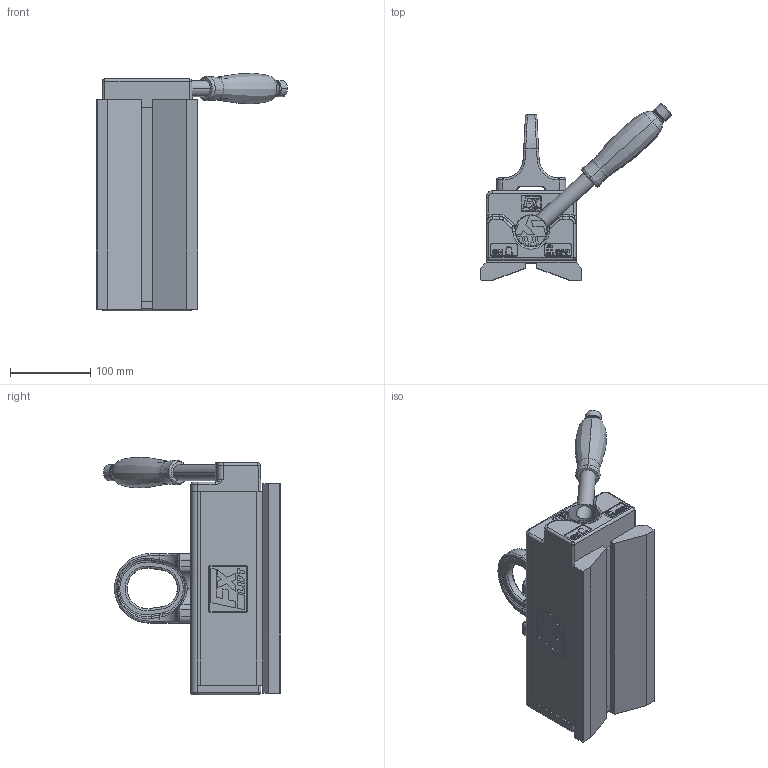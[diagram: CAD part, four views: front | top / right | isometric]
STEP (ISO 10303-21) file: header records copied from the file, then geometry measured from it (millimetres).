
FILE_DESCRIPTION(('STEP AP214'),'1');
FILE_NAME('1101_0451.stp','2017-06-12T09:30:41',('TraceParts'),('TraceParts S.A.'),'Spatial InterOp 3D',' ',' ');
FILE_SCHEMA(('automotive_design'));
Length unit declared in the file: millimetre
Products named in the file (1): 1101_0451
Bounding box: 237.53 x 220.13 x 294.94 mm (x, y, z)
Volume: 3375968 mm3; surface area: 222107.3 mm2
Topology: 1 solids, 1 shells, 1300 faces, 3273 edges, 1957 vertices
Faces by surface type: plane 492, bspline 410, cylinder 361, cone 35, torus 2
Entity records: 73128 total; most frequent: CARTESIAN_POINT 35820, ORIENTED_EDGE 6370, DIRECTION 4401, EDGE_CURVE 3185, VERTEX_POINT 1958, LINE 1649, VECTOR 1649, EDGE_LOOP 1379
